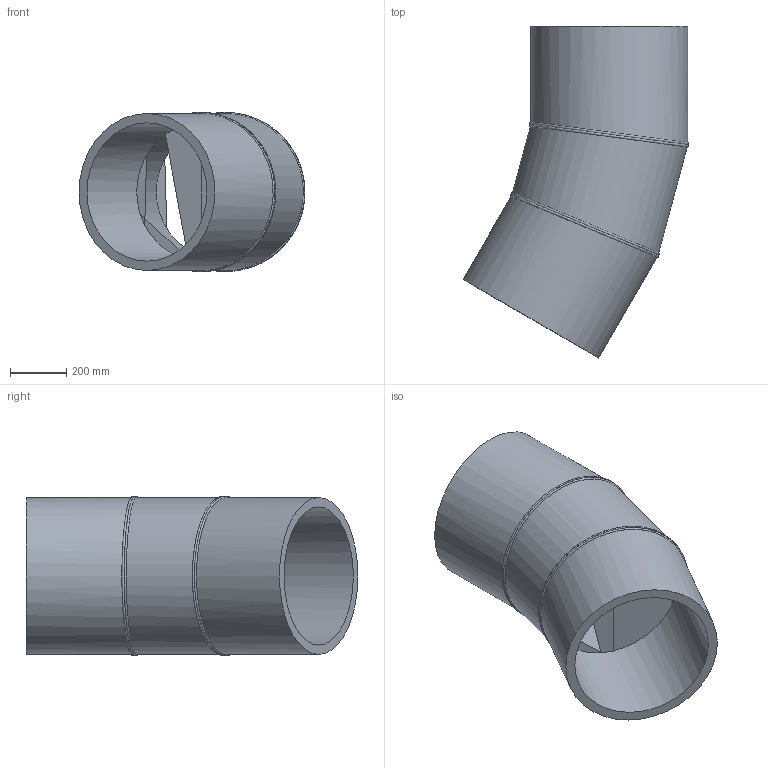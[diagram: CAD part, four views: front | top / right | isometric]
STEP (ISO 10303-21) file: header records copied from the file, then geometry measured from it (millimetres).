
FILE_DESCRIPTION(/* description */ ('Unknown'),/* implementation_level */ '2;1');
FILE_NAME(/* name */ 'Curva 30° a settore DE560 SDR17',/* time_stamp */ '2022-07-26T09:08:08+02:00',/* author */ ('Unknown'),/* organization */ ('Unknown'),/* preprocessor_version */ 'ST-DEVELOPER v18.102',/* originating_system */ 'Solid Edge',/* authorisation */ 'Unknown');
FILE_SCHEMA (('AUTOMOTIVE_DESIGN {1 0 10303 214 3 1 1}'));
Length unit declared in the file: millimetre
Products named in the file (3): Curva 30° a settore DE560 SDR17; Tubo x Gomito 30° DE560 SDR17 - 1; Tubo x Gomito 30° DE560 SDR17 - 2
Assembly tree (3 placements, depth 2):
  Curva 30° a settore DE560 SDR17
    Tubo x Gomito 30° DE560 SDR17 - 1  x2
    Tubo x Gomito 30° DE560 SDR17 - 2
Bounding box: 806.28 x 1184.25 x 567.99 mm (x, y, z)
Volume: 61028474.5 mm3; surface area: 4030294.1 mm2
Topology: 3 solids, 3 shells, 24 faces, 51 edges, 33 vertices
Faces by surface type: cylinder 14, plane 6, bspline 4
Full cylindrical faces by diameter (mm): 493.6 x3, 560 x3
Entity records: 3468 total; most frequent: CARTESIAN_POINT 3073, DIRECTION 70, ORIENTED_EDGE 52, AXIS2_PLACEMENT_3D 35, EDGE_LOOP 28, FACE_BOUND 28, EDGE_CURVE 26, VERTEX_POINT 20
